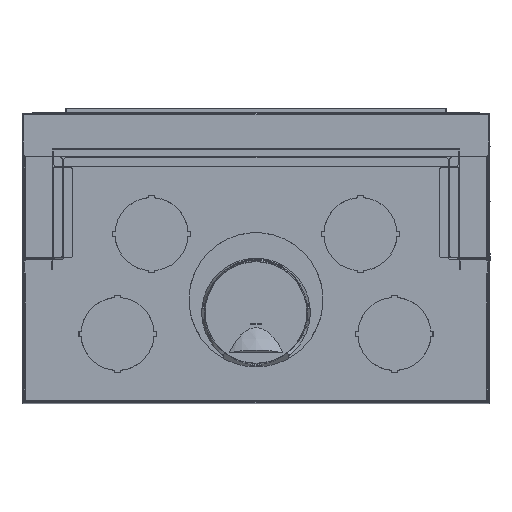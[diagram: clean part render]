
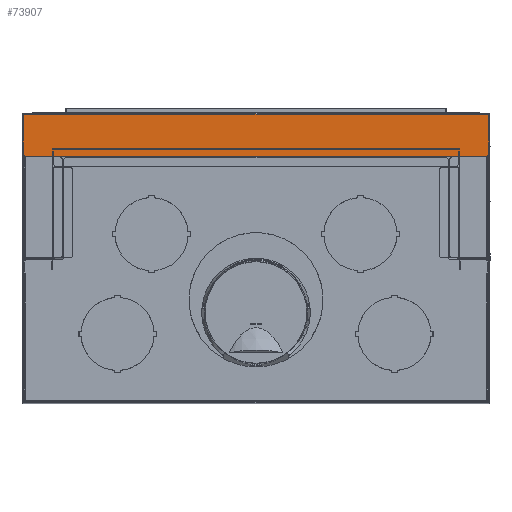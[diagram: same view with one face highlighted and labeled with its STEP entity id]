
A CAD part, top view. The second image highlights one B-rep face of the part: STEP entity #73907.
In plain terms, the highlighted planar face has unit normal (0, 0, 1).
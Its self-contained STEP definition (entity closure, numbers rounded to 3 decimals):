
#3205=CIRCLE('',#78485,0.6);
#3206=CIRCLE('',#78486,0.6);
#6221=FACE_OUTER_BOUND('',#10173,.T.);
#10173=EDGE_LOOP('',(#51462,#51463,#51464,#51465,#51466,#51467));
#15505=LINE('',#110944,#22982);
#15506=LINE('',#110948,#22983);
#15507=LINE('',#110950,#22984);
#15508=LINE('',#110951,#22985);
#22982=VECTOR('',#88948,88.072);
#22983=VECTOR('',#88951,7.425);
#22984=VECTOR('',#88952,89.272);
#22985=VECTOR('',#88953,7.425);
#30172=VERTEX_POINT('',#110940);
#30173=VERTEX_POINT('',#110941);
#30174=VERTEX_POINT('',#110943);
#30175=VERTEX_POINT('',#110945);
#30176=VERTEX_POINT('',#110947);
#30177=VERTEX_POINT('',#110949);
#38067=EDGE_CURVE('',#30172,#30173,#3205,.T.);
#38068=EDGE_CURVE('',#30172,#30174,#15505,.T.);
#38069=EDGE_CURVE('',#30175,#30174,#3206,.T.);
#38070=EDGE_CURVE('',#30176,#30175,#15506,.T.);
#38071=EDGE_CURVE('',#30176,#30177,#15507,.T.);
#38072=EDGE_CURVE('',#30173,#30177,#15508,.T.);
#51462=ORIENTED_EDGE('',*,*,#38067,.F.);
#51463=ORIENTED_EDGE('',*,*,#38068,.T.);
#51464=ORIENTED_EDGE('',*,*,#38069,.F.);
#51465=ORIENTED_EDGE('',*,*,#38070,.F.);
#51466=ORIENTED_EDGE('',*,*,#38071,.T.);
#51467=ORIENTED_EDGE('',*,*,#38072,.F.);
#68088=PLANE('',#78484);
#73907=ADVANCED_FACE('',(#6221),#68088,.T.);
#78484=AXIS2_PLACEMENT_3D('',#110939,#88944,#88945);
#78485=AXIS2_PLACEMENT_3D('',#110942,#88946,#88947);
#78486=AXIS2_PLACEMENT_3D('',#110946,#88949,#88950);
#88944=DIRECTION('center_axis',(0.,0.,
1.));
#88945=DIRECTION('ref_axis',(-1.,0.,0.));
#88946=DIRECTION('center_axis',(0.,0.,
-1.));
#88947=DIRECTION('ref_axis',(-0.707,-0.707,0.));
#88948=DIRECTION('',(1.,0.,0.));
#88949=DIRECTION('center_axis',(0.,0.,
-1.));
#88950=DIRECTION('ref_axis',(0.707,-0.707,0.));
#88951=DIRECTION('',(0.,-1.,0.));
#88952=DIRECTION('',(-1.,0.,0.));
#88953=DIRECTION('',(0.,1.,0.));
#110939=CARTESIAN_POINT('Origin',(0.,28.618,
117.));
#110940=CARTESIAN_POINT('',(-44.036,-2.35,117.));
#110941=CARTESIAN_POINT('',(-44.636,-1.75,117.));
#110942=CARTESIAN_POINT('Origin',(-44.036,-1.75,117.));
#110943=CARTESIAN_POINT('',(44.036,-2.35,117.));
#110944=CARTESIAN_POINT('',(-44.8,-2.35,117.));
#110945=CARTESIAN_POINT('',(44.636,-1.75,117.));
#110946=CARTESIAN_POINT('Origin',(44.036,-1.75,117.));
#110947=CARTESIAN_POINT('',(44.636,5.675,117.));
#110948=CARTESIAN_POINT('',(44.636,15.14,117.));
#110949=CARTESIAN_POINT('',(-44.636,5.675,117.));
#110950=CARTESIAN_POINT('',(0.,5.675,117.));
#110951=CARTESIAN_POINT('',(-44.636,15.14,117.));
